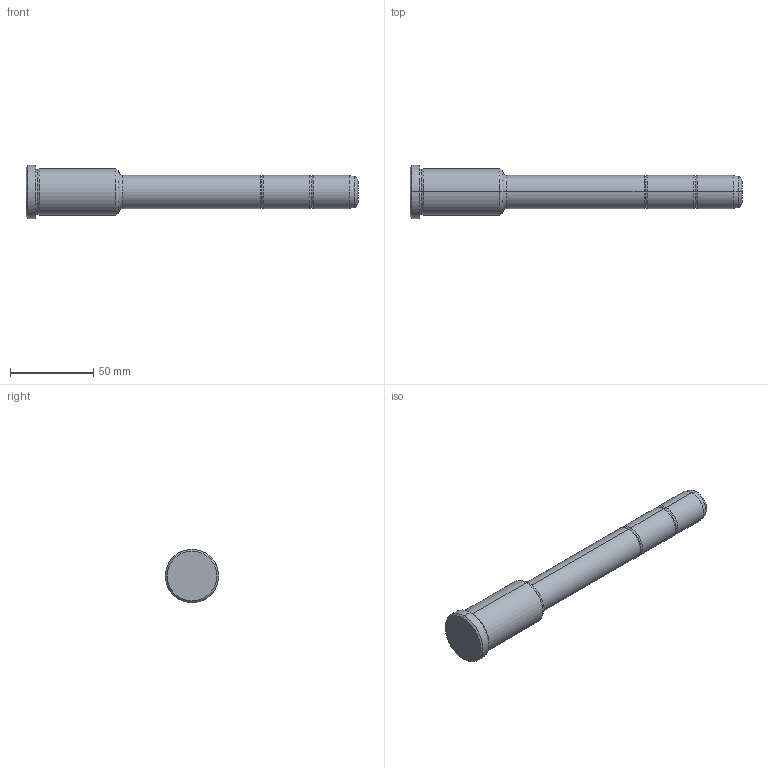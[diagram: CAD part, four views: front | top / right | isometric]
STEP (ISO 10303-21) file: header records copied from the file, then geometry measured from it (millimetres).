
FILE_DESCRIPTION(('CATIA V5 STEP Exchange'),'2;1');
FILE_NAME('C:\Users\Utente\Desktop\IO LAVORO\3D X SITO CF\X SITO\PLASTICA\351\351-20X56X200.stp','2021-08-27T13:00:49+00:00',('none'),('none'),'CATIA Version 5 Release 20 GA (IN-10)','CATIA V5 STEP AP203','none');
FILE_SCHEMA(('CONFIG_CONTROL_DESIGN'));
Length unit declared in the file: millimetre
Products named in the file (1): 351-20X56X200
Bounding box: 200 x 32 x 32 mm (x, y, z)
Volume: 80359.8 mm3; surface area: 15391.8 mm2
Topology: 1 solids, 1 shells, 36 faces, 102 edges, 70 vertices
Faces by surface type: torus 16, cylinder 10, cone 6, plane 4
Entity records: 1292 total; most frequent: CARTESIAN_POINT 321, ORIENTED_EDGE 204, DIRECTION 166, AXIS2_PLACEMENT_3D 115, EDGE_CURVE 102, CIRCLE 78, VERTEX_POINT 70, EDGE_LOOP 38
